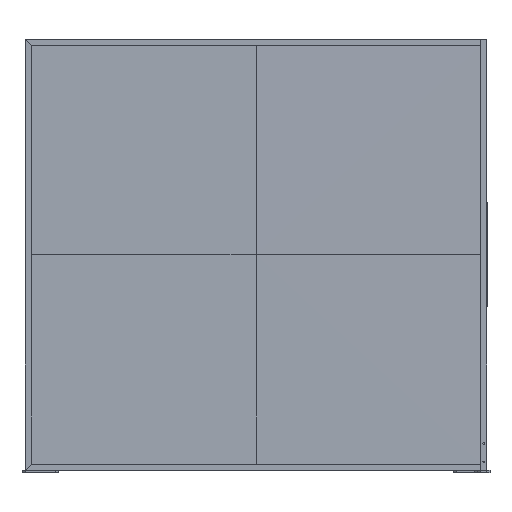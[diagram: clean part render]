
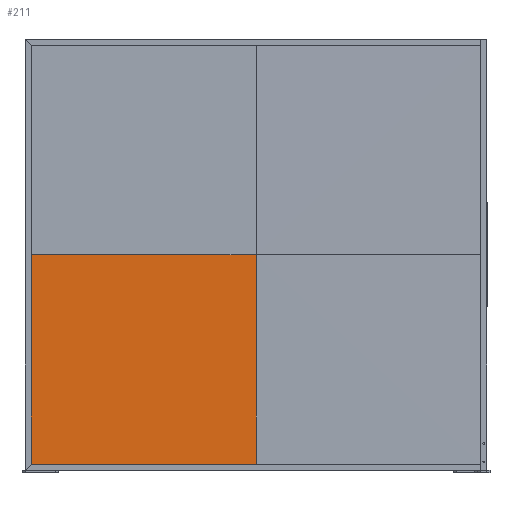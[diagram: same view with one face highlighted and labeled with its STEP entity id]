
A CAD part, front view. The second image highlights one B-rep face of the part: STEP entity #211.
In plain terms, the highlighted free-form (B-spline) face has degree [3, 3] with [6, 6] control points.
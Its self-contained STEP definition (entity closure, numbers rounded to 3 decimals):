
#29=B_SPLINE_SURFACE_WITH_KNOTS('',3,3,((#4477,#4478,#4479,#4480,#4481,
#4482),(#4483,#4484,#4485,#4486,#4487,#4488),(#4489,#4490,#4491,#4492,#4493,
#4494),(#4495,#4496,#4497,#4498,#4499,#4500),(#4501,#4502,#4503,#4504,#4505,
#4506),(#4507,#4508,#4509,#4510,#4511,#4512)),.UNSPECIFIED.,.F.,.F.,.F.,
(4,1,1,4),(4,1,1,4),(0.,60.,90.,430.),(-680.,-620.,-590.,0.),
 .UNSPECIFIED.);
#211=ADVANCED_FACE('',(#373),#29,.T.);
#373=FACE_OUTER_BOUND('',#547,.T.);
#547=EDGE_LOOP('',(#1151,#1152,#1153,#1154));
#1151=ORIENTED_EDGE('',*,*,#1615,.T.);
#1152=ORIENTED_EDGE('',*,*,#1616,.T.);
#1153=ORIENTED_EDGE('',*,*,#1617,.T.);
#1154=ORIENTED_EDGE('',*,*,#1618,.T.);
#1615=EDGE_CURVE('',#2284,#2285,#2007,.T.);
#1616=EDGE_CURVE('',#2285,#2286,#2008,.T.);
#1617=EDGE_CURVE('',#2286,#2287,#2009,.T.);
#1618=EDGE_CURVE('',#2287,#2284,#2010,.T.);
#2007=B_SPLINE_CURVE_WITH_KNOTS('',3,(#4630,#4631,#4632,#4633,#4634,#4635),
 .UNSPECIFIED.,.F.,.F.,(4,1,1,4),(0.,590.,620.,680.),.UNSPECIFIED.);
#2008=B_SPLINE_CURVE_WITH_KNOTS('',3,(#4636,#4637,#4638,#4639,#4640,#4641),
 .UNSPECIFIED.,.F.,.F.,(4,1,1,4),(0.,60.,90.,430.),
 .UNSPECIFIED.);
#2009=B_SPLINE_CURVE_WITH_KNOTS('',3,(#4642,#4643,#4644,#4645,#4646,#4647),
 .UNSPECIFIED.,.F.,.F.,(4,1,1,4),(0.,60.,90.,680.),.UNSPECIFIED.);
#2010=B_SPLINE_CURVE_WITH_KNOTS('',3,(#4648,#4649,#4650,#4651,#4652,#4653),
 .UNSPECIFIED.,.F.,.F.,(4,1,1,4),(0.,340.,370.,430.),.UNSPECIFIED.);
#2284=VERTEX_POINT('',#4621);
#2285=VERTEX_POINT('',#4622);
#2286=VERTEX_POINT('',#4623);
#2287=VERTEX_POINT('',#4624);
#4477=CARTESIAN_POINT('',(-730.,-8.,28.));
#4478=CARTESIAN_POINT('',(-730.,-8.,48.));
#4479=CARTESIAN_POINT('',(-730.,-8.,78.));
#4480=CARTESIAN_POINT('',(-730.,-8.,304.667));
#4481=CARTESIAN_POINT('',(-730.,-8.,511.333));
#4482=CARTESIAN_POINT('',(-730.,-8.,708.));
#4483=CARTESIAN_POINT('',(-710.,-8.,28.));
#4484=CARTESIAN_POINT('',(-710.,-11.,48.));
#4485=CARTESIAN_POINT('',(-710.,-11.,78.));
#4486=CARTESIAN_POINT('',(-710.,-11.,304.667));
#4487=CARTESIAN_POINT('',(-710.,-11.,511.333));
#4488=CARTESIAN_POINT('',(-710.,-11.,708.));
#4489=CARTESIAN_POINT('',(-680.,-8.,28.));
#4490=CARTESIAN_POINT('',(-680.,-11.,48.));
#4491=CARTESIAN_POINT('',(-680.,-11.,78.));
#4492=CARTESIAN_POINT('',(-680.,-11.,304.667));
#4493=CARTESIAN_POINT('',(-680.,-11.,511.333));
#4494=CARTESIAN_POINT('',(-680.,-11.,708.));
#4495=CARTESIAN_POINT('',(-436.667,-8.,28.));
#4496=CARTESIAN_POINT('',(-436.667,-11.,48.));
#4497=CARTESIAN_POINT('',(-436.667,-11.,78.));
#4498=CARTESIAN_POINT('',(-436.667,-11.,304.667));
#4499=CARTESIAN_POINT('',(-436.667,-11.,511.333));
#4500=CARTESIAN_POINT('',(-436.667,-11.,708.));
#4501=CARTESIAN_POINT('',(-213.333,-8.,28.));
#4502=CARTESIAN_POINT('',(-213.333,-11.,48.));
#4503=CARTESIAN_POINT('',(-213.333,-11.,78.));
#4504=CARTESIAN_POINT('',(-213.333,-11.,304.667));
#4505=CARTESIAN_POINT('',(-213.333,-11.,511.333));
#4506=CARTESIAN_POINT('',(-213.333,-11.,708.));
#4507=CARTESIAN_POINT('',(0.,-8.,28.));
#4508=CARTESIAN_POINT('',(0.,-11.,48.));
#4509=CARTESIAN_POINT('',(0.,-11.,78.));
#4510=CARTESIAN_POINT('',(0.,-11.,304.667));
#4511=CARTESIAN_POINT('',(0.,-11.,511.333));
#4512=CARTESIAN_POINT('',(0.,-11.,708.));
#4621=CARTESIAN_POINT('',(-730.,-8.,708.));
#4622=CARTESIAN_POINT('',(-730.,-8.,28.));
#4623=CARTESIAN_POINT('',(0.,-8.,28.));
#4624=CARTESIAN_POINT('',(0.,-11.,708.));
#4630=CARTESIAN_POINT('',(-730.,-8.,708.));
#4631=CARTESIAN_POINT('',(-730.,-8.,511.333));
#4632=CARTESIAN_POINT('',(-730.,-8.,304.667));
#4633=CARTESIAN_POINT('',(-730.,-8.,78.));
#4634=CARTESIAN_POINT('',(-730.,-8.,48.));
#4635=CARTESIAN_POINT('',(-730.,-8.,28.));
#4636=CARTESIAN_POINT('',(-730.,-8.,28.));
#4637=CARTESIAN_POINT('',(-710.,-8.,28.));
#4638=CARTESIAN_POINT('',(-680.,-8.,28.));
#4639=CARTESIAN_POINT('',(-436.667,-8.,28.));
#4640=CARTESIAN_POINT('',(-213.333,-8.,28.));
#4641=CARTESIAN_POINT('',(0.,-8.,28.));
#4642=CARTESIAN_POINT('',(0.,-8.,28.));
#4643=CARTESIAN_POINT('',(0.,-11.,48.));
#4644=CARTESIAN_POINT('',(0.,-11.,78.));
#4645=CARTESIAN_POINT('',(0.,-11.,304.667));
#4646=CARTESIAN_POINT('',(0.,-11.,511.333));
#4647=CARTESIAN_POINT('',(0.,-11.,708.));
#4648=CARTESIAN_POINT('',(0.,-11.,708.));
#4649=CARTESIAN_POINT('',(-213.333,-11.,708.));
#4650=CARTESIAN_POINT('',(-436.667,-11.,708.));
#4651=CARTESIAN_POINT('',(-680.,-11.,708.));
#4652=CARTESIAN_POINT('',(-710.,-11.,708.));
#4653=CARTESIAN_POINT('',(-730.,-8.,708.));
